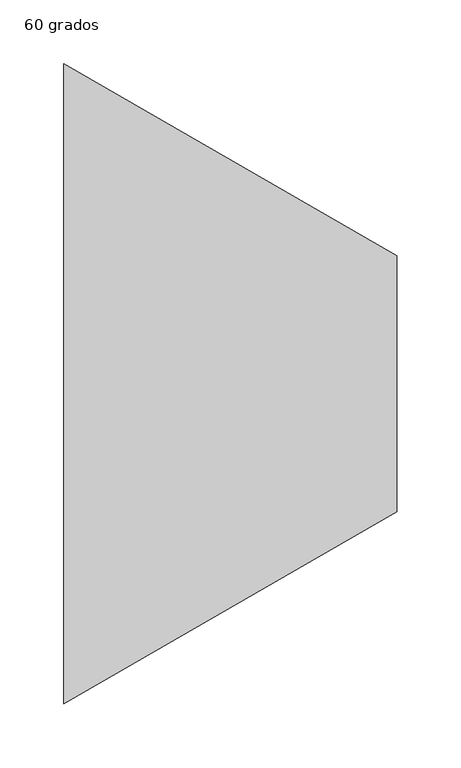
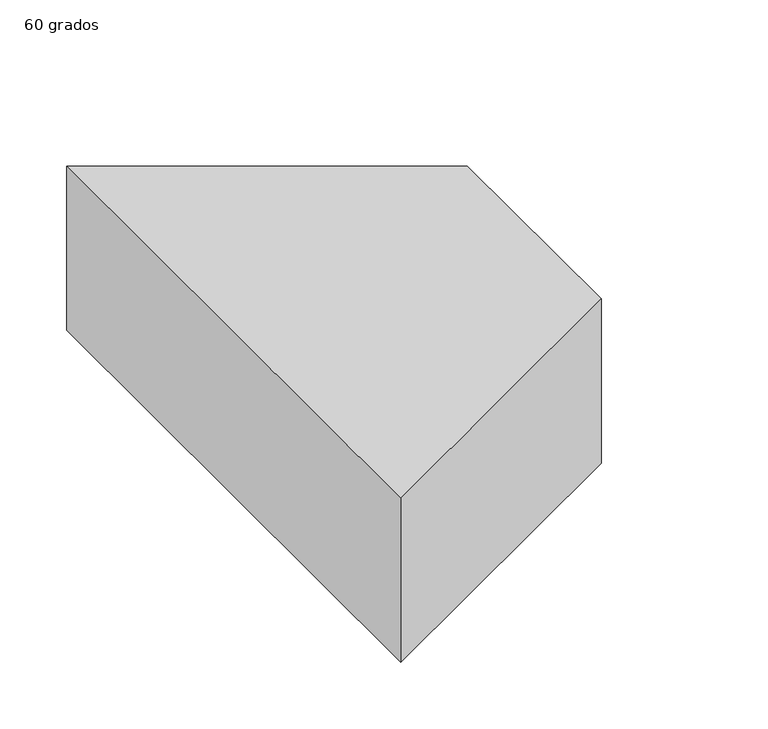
"""IFC4 building model written with IfcOpenShell, lengths in millimetres: duct fitting geometry, M_Transición rectangular - Ángulo : 60 grados."""

from ifc_helpers import new_model, si_unit, frame, origin, place, context, project, spatial, polyline, outline, extrude, source, transform, mapped, element, save


def duct_fitting_60_grados_041a3119(model_context):
    return source(origin(), model_context, "Body", "SweptSolid", [
        extrude(outline(polyline([(0.0, -250.0), (0.0, 250.0), (259.8076211, 100.0), (259.8076211, -100.0), (0.0, -250.0)])), frame((0.0, 0.0, -75.0), z_axis=(0.0, 0.0, 1.0), x_axis=(1.0, 0.0, 0.0)), (0.0, 0.0, 1.0), 150.0),
    ])


if __name__ == "__main__":
    model = new_model("IFC4")
    model_context = context("Model", 3, world=origin())
    ifc_project = project(units=[si_unit("LENGTHUNIT", "METRE", prefix="MILLI")], contexts=[model_context])
    site = spatial("IfcSite", under=ifc_project)
    building = spatial("IfcBuilding", under=site)
    placement = place(None, origin())
    duct_fitting_60_grados_shape = duct_fitting_60_grados_041a3119(model_context)
    element("IfcDuctFitting", 1, ObjectType="M_Transición rectangular - Ángulo : 60 grados", at=placement, inside=building, context=model_context, shape_type="MappedRepresentation", body=[
        mapped(duct_fitting_60_grados_shape, transform((0.0, 0.0, 0.0), x_axis=(1.0, 0.0, 0.0), y_axis=(0.0, 1.0, 0.0), z_axis=(0.0, 0.0, 1.0))),
    ])
    save(model, "model.ifc")
